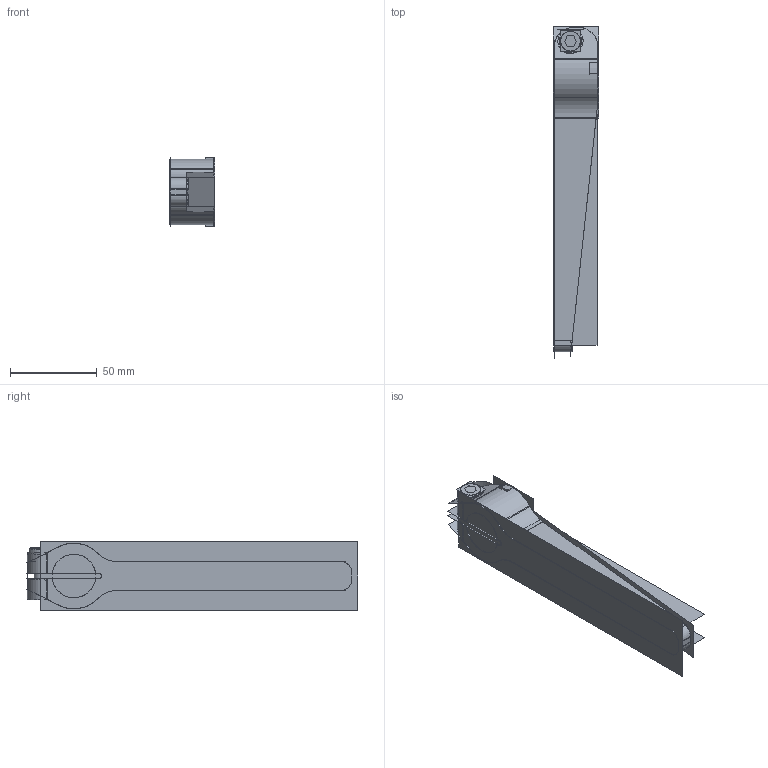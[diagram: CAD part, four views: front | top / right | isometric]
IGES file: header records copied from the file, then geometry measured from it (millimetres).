
Start section:  PTC IGES file: CAL92A..igs
Global section: file name: CAL92A..igs; native system: Creo Parametric by PTC Inc.; preprocessor: 2018400; author: mike.ward; organization: Unknown; date: 20201111.145603; units: millimetre
Bounding box: 26.15 x 191.07 x 39.36 mm (x, y, z)
Surface area: 51700.1 mm2 (no closed solid volume)
Topology: 0 solids, 0 shells, 168 faces, 1274 edges, 1364 vertices
Faces by surface type: revolution 92, bspline 76
